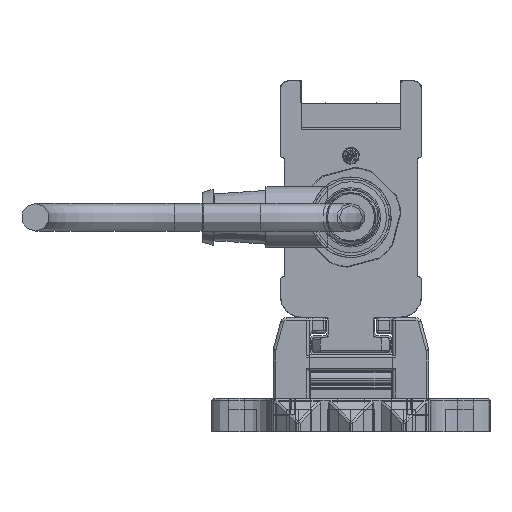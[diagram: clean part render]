
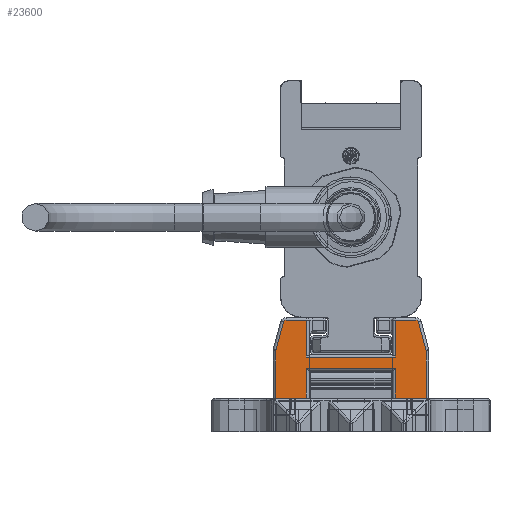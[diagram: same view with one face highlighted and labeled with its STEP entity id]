
A CAD part, left-side view. The second image highlights one B-rep face of the part: STEP entity #23600.
In plain terms, the highlighted planar face has unit normal (-1, 0, 0).
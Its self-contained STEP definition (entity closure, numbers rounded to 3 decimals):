
#23600=ADVANCED_FACE('', (#23610), #23620, .T.);
#189050=AXIS2_PLACEMENT_3D('Ax2Pl3d', #189060, #189070, #189080);
#189290=AXIS2_PLACEMENT_3D('Ax2Pl3d', #189300, #189310, #189320);
#194170=AXIS2_PLACEMENT_3D('Ax2Pl3d', #194180, #194190, #194200);
#199250=AXIS2_PLACEMENT_3D('Ax2Pl3d', #199260, #199270, #199280);
#208930=AXIS2_PLACEMENT_3D('Ax2Pl3d', #208940, #208950, #208960);
#844600=CARTESIAN_POINT('', (-747.669,-5606.345,
331.37));
#189060=CARTESIAN_POINT('HicPkt', (-747.669,-5605.379,
331.111));
#844610=CARTESIAN_POINT('', (-747.669,-5606.379,331.111)
);
#844620=CARTESIAN_POINT('', (-747.669,-5605.037,
336.255));
#844640=CARTESIAN_POINT('', (-747.669,-5605.037,
336.255));
#844670=CARTESIAN_POINT('', (-747.669,-5604.554,
336.625));
#189300=CARTESIAN_POINT('HicPkt', (-747.669,-5604.554,
336.125));
#844890=CARTESIAN_POINT('', (-747.669,-5606.379,322.625)
);
#844900=CARTESIAN_POINT('', (-747.669,-5600.881,322.625)
);
#844910=CARTESIAN_POINT('', (-747.669,-5600.881,322.625)
);
#844990=CARTESIAN_POINT('', (-747.669,-5584.881,322.625)
);
#845000=CARTESIAN_POINT('', (-747.669,-5579.383,322.625)
);
#845010=CARTESIAN_POINT('', (-747.669,-5579.383,322.625)
);
#194180=CARTESIAN_POINT('HicPkt', (-747.669,-5581.209,
336.125));
#847480=CARTESIAN_POINT('', (-747.669,-5580.726,
336.255));
#847490=CARTESIAN_POINT('', (-747.669,-5581.209,
336.625));
#847500=CARTESIAN_POINT('', (-747.669,-5600.881,
330.025));
#847510=CARTESIAN_POINT('', (-747.669,-5584.881,
330.025));
#847520=CARTESIAN_POINT('', (-747.669,-5600.881,
330.025));
#847680=CARTESIAN_POINT('', (-747.669,-5600.881,
328.005));
#847690=CARTESIAN_POINT('', (-747.669,-5584.881,
328.005));
#847700=CARTESIAN_POINT('', (-747.669,-5584.881,
328.005));
#847710=CARTESIAN_POINT('', (-747.669,-5600.881,
328.005));
#847730=CARTESIAN_POINT('', (-747.669,-5584.881,322.625)
);
#847740=CARTESIAN_POINT('', (-747.669,-5584.881,
330.025));
#847750=CARTESIAN_POINT('', (-747.669,-5584.881,
336.625));
#848600=CARTESIAN_POINT('', (-747.669,-5584.881,
336.625));
#848610=CARTESIAN_POINT('', (-747.669,-5580.726,
336.255));
#848620=CARTESIAN_POINT('', (-747.669,-5579.417,
331.37));
#848810=CARTESIAN_POINT('', (-747.669,-5579.383,331.111)
);
#848820=CARTESIAN_POINT('', (-747.669,-5579.383,331.111)
);
#199260=CARTESIAN_POINT('HicPkt', (-747.669,-5580.383,
331.111));
#849630=CARTESIAN_POINT('', (-747.669,-5606.379,331.111)
);
#208940=CARTESIAN_POINT('HicPkt', (-747.669,-5604.554,
336.625));
#851430=CARTESIAN_POINT('', (-747.669,-5600.881,
336.625));
#851440=CARTESIAN_POINT('', (-747.669,-5600.881,
336.625));
#851450=CARTESIAN_POINT('', (-747.669,-5600.881,
336.625));
#981330=CIRCLE('Circle', #189050, 1.);
#981370=CIRCLE('Circle', #189290, 0.5);
#981950=CIRCLE('Circle', #194170, 0.5);
#982480=CIRCLE('Circle', #199250, 1.);
#189070=DIRECTION('Axis', (-1.,0.,
0.));
#189080=DIRECTION('RefDirection', (0.,
0.,-1.));
#1367870=DIRECTION('', (0.,0.259,
0.966));
#189310=DIRECTION('Axis', (-1.,0.,
0.));
#189320=DIRECTION('RefDirection', (0.,
0.,-1.));
#1367980=DIRECTION('', (0.,1.,0.));
#1368020=DIRECTION('', (0.,1.,0.));
#194190=DIRECTION('Axis', (1.,0.,
0.));
#194200=DIRECTION('RefDirection', (0.,
0.,-1.));
#1369210=DIRECTION('', (0.,-1.,0.));
#1369310=DIRECTION('', (0.,1.,0.));
#1369320=DIRECTION('', (0.,0.,1.));
#1369340=DIRECTION('', (0.,0.,-1.));
#1369350=DIRECTION('', (0.,0.,-1.));
#1369780=DIRECTION('', (0.,-1.,0.))
;
#1369790=DIRECTION('', (0.,-0.259,0.966));
#1369880=DIRECTION('', (0.,0.,1.));
#199270=DIRECTION('Axis', (1.,0.,
0.));
#199280=DIRECTION('RefDirection', (0.,
0.,-1.));
#1370250=DIRECTION('', (0.,0.,1.));
#208950=DIRECTION('Axis', (-1.,0.,
0.));
#208960=DIRECTION('RefDirection', (0.,
0.,-1.));
#1371090=DIRECTION('', (0.,1.,0.));
#1371100=DIRECTION('', (0.,0.,1.));
#1456860=EDGE_CURVE('', #1456870, #1456850, #981330, .T.);
#1456920=EDGE_CURVE('', #1456850, #1456900, #1456930, .T.);
#1456990=EDGE_CURVE('', #1456900, #1456980, #981370, .T.);
#1457440=EDGE_CURVE('', #1457430, #1457450, #1457460, .T.);
#1457600=EDGE_CURVE('', #1457590, #1457610, #1457620, .T.);
#1461960=EDGE_CURVE('', #1461970, #1461980, #981950, .T.);
#1462010=EDGE_CURVE('', #1462020, #1462030, #1462040, .T.);
#1462380=EDGE_CURVE('', #1462360, #1462390, #1462400, .T.);
#1462430=EDGE_CURVE('', #1457450, #1462360, #1462440, .T.);
#1462470=EDGE_CURVE('', #1462390, #1457590, #1462480, .T.);
#1462490=EDGE_CURVE('', #1462500, #1462020, #1462510, .T.);
#1464330=EDGE_CURVE('', #1461980, #1462500, #1464340, .T.);
#1464400=EDGE_CURVE('', #1464410, #1461970, #1464420, .T.);
#1464840=EDGE_CURVE('', #1457610, #1464850, #1464860, .T.);
#1464880=EDGE_CURVE('', #1464850, #1464410, #982480, .T.);
#1466590=EDGE_CURVE('', #1457430, #1456870, #1466600, .T.);
#1470400=EDGE_CURVE('', #1456980, #1470410, #1470420, .T.);
#1470430=EDGE_CURVE('', #1462030, #1470410, #1470440, .T.);
#1750440=EDGE_LOOP('Edge_loop', (#1750450,#1750460,#1750470,#1750480,
#1750490,#1750500,#1750510,#1750520,#1750530,#1750540,#1750550,
#1750560,#1750570,#1750580,#1750590,#1750600,#1750610,#1750620));
#23610=FACE_OUTER_BOUND('Face_outer_bound', #1750440, .T.);
#1456930=LINE('Line', #844640, #2017940);
#1457460=LINE('Line', #844900, #2018050);
#1457620=LINE('Line', #845000, #2018090);
#1462040=LINE('Line', #847500, #2019280);
#1462400=LINE('Line', #847690, #2019380);
#1462440=LINE('Line', #847710, #2019390);
#1462480=LINE('Line', #847730, #2019410);
#1462510=LINE('Line', #847740, #2019420);
#1464340=LINE('Line', #848600, #2019850);
#1464420=LINE('Line', #848610, #2019860);
#1464860=LINE('Line', #848810, #2019950);
#1466600=LINE('Line', #849630, #2020320);
#1470420=LINE('Line', #851430, #2021160);
#1470440=LINE('Line', #851450, #2021170);
#1750450=ORIENTED_EDGE('', *, *, #1470400, .T.);
#1750460=ORIENTED_EDGE('', *, *, #1470430, .F.);
#1750470=ORIENTED_EDGE('', *, *, #1462010, .F.);
#1750480=ORIENTED_EDGE('', *, *, #1462490, .F.);
#1750490=ORIENTED_EDGE('', *, *, #1464330, .F.);
#1750500=ORIENTED_EDGE('', *, *, #1461960, .F.);
#1750510=ORIENTED_EDGE('', *, *, #1464400, .F.);
#1750520=ORIENTED_EDGE('', *, *, #1464880, .F.);
#1750530=ORIENTED_EDGE('', *, *, #1464840, .F.);
#1750540=ORIENTED_EDGE('', *, *, #1457600, .F.);
#1750550=ORIENTED_EDGE('', *, *, #1462470, .F.);
#1750560=ORIENTED_EDGE('', *, *, #1462380, .F.);
#1750570=ORIENTED_EDGE('', *, *, #1462430, .F.);
#1750580=ORIENTED_EDGE('', *, *, #1457440, .F.);
#1750590=ORIENTED_EDGE('', *, *, #1466590, .T.);
#1750600=ORIENTED_EDGE('', *, *, #1456860, .T.);
#1750610=ORIENTED_EDGE('', *, *, #1456920, .T.);
#1750620=ORIENTED_EDGE('', *, *, #1456990, .T.);
#23620=PLANE('Plane', #208930);
#2017940=VECTOR('', #1367870, 5.057);
#2018050=VECTOR('', #1367980, 5.498);
#2018090=VECTOR('', #1368020, 5.498);
#2019280=VECTOR('', #1369210, 16.);
#2019380=VECTOR('', #1369310, 16.);
#2019390=VECTOR('', #1369320, 5.38);
#2019410=VECTOR('', #1369340, 5.38);
#2019420=VECTOR('', #1369350, 6.6);
#2019850=VECTOR('', #1369780, 3.672);
#2019860=VECTOR('', #1369790, 5.057);
#2019950=VECTOR('', #1369880, 8.486);
#2020320=VECTOR('', #1370250, 8.486);
#2021160=VECTOR('', #1371090, 3.672);
#2021170=VECTOR('', #1371100, 6.6);
#1456850=VERTEX_POINT('', #844600);
#1456870=VERTEX_POINT('', #844610);
#1456900=VERTEX_POINT('', #844620);
#1456980=VERTEX_POINT('', #844670);
#1457430=VERTEX_POINT('', #844890);
#1457450=VERTEX_POINT('', #844910);
#1457590=VERTEX_POINT('', #844990);
#1457610=VERTEX_POINT('', #845010);
#1461970=VERTEX_POINT('', #847480);
#1461980=VERTEX_POINT('', #847490);
#1462020=VERTEX_POINT('', #847510);
#1462030=VERTEX_POINT('', #847520);
#1462360=VERTEX_POINT('', #847680);
#1462390=VERTEX_POINT('', #847700);
#1462500=VERTEX_POINT('', #847750);
#1464410=VERTEX_POINT('', #848620);
#1464850=VERTEX_POINT('', #848820);
#1470410=VERTEX_POINT('', #851440);
